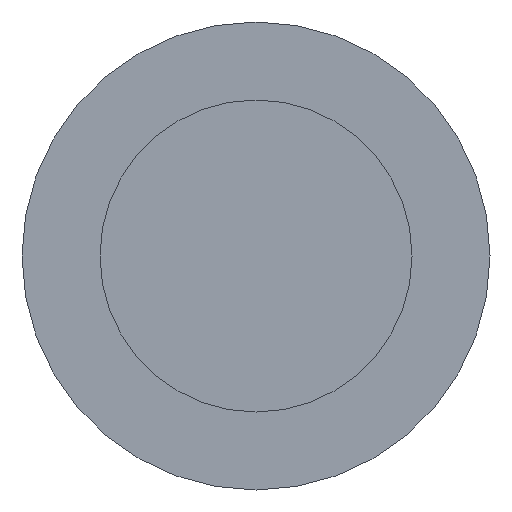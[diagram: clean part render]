
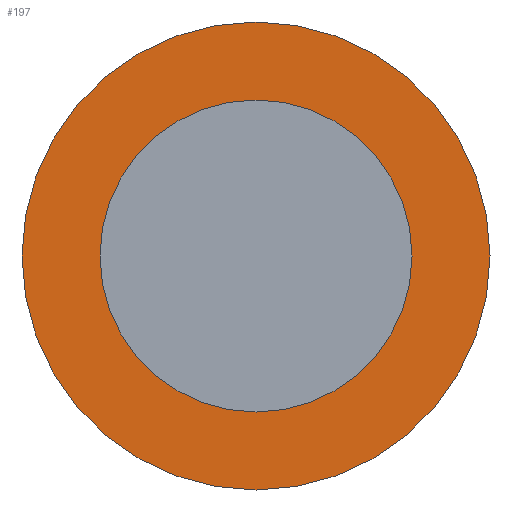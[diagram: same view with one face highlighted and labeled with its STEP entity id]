
A CAD part, front view. The second image highlights one B-rep face of the part: STEP entity #197.
In plain terms, the highlighted planar face has unit normal (0, -1, 0).
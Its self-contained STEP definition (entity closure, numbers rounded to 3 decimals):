
#12 = VERTEX_POINT ( 'NONE', #294 ) ;
#18 = DIRECTION ( 'NONE',  ( 0., 0., 1. ) ) ;
#19 = DIRECTION ( 'NONE',  ( 0., 1., 0. ) ) ;
#28 = ORIENTED_EDGE ( 'NONE', *, *, #189, .F. ) ;
#38 = PLANE ( 'NONE',  #130 ) ;
#57 = CARTESIAN_POINT ( 'NONE',  ( 0., 0., 0. ) ) ;
#58 = ORIENTED_EDGE ( 'NONE', *, *, #117, .T. ) ;
#75 = EDGE_LOOP ( 'NONE', ( #107, #58 ) ) ;
#84 = CARTESIAN_POINT ( 'NONE',  ( 0., 0., 0. ) ) ;
#86 = CARTESIAN_POINT ( 'NONE',  ( 0., 0., -5. ) ) ;
#88 = DIRECTION ( 'NONE',  ( 0., 0., 1. ) ) ;
#91 = DIRECTION ( 'NONE',  ( 0., 1., 0. ) ) ;
#93 = FACE_BOUND ( 'NONE', #75, .T. ) ;
#107 = ORIENTED_EDGE ( 'NONE', *, *, #273, .T. ) ;
#112 = DIRECTION ( 'NONE',  ( 0., 1., 0. ) ) ;
#116 = CIRCLE ( 'NONE', #226, 5. ) ;
#117 = EDGE_CURVE ( 'NONE', #255, #299, #284, .T. ) ;
#129 = VERTEX_POINT ( 'NONE', #300 ) ;
#130 = AXIS2_PLACEMENT_3D ( 'NONE', #224, #243, #88 ) ;
#142 = CARTESIAN_POINT ( 'NONE',  ( 0., 0., 0. ) ) ;
#143 = FACE_OUTER_BOUND ( 'NONE', #218, .T. ) ;
#172 = CIRCLE ( 'NONE', #308, 7.5 ) ;
#178 = AXIS2_PLACEMENT_3D ( 'NONE', #84, #112, #193 ) ;
#181 = DIRECTION ( 'NONE',  ( 0., 1., 0. ) ) ;
#189 = EDGE_CURVE ( 'NONE', #12, #129, #260, .T. ) ;
#193 = DIRECTION ( 'NONE',  ( 0., 0., 1. ) ) ;
#194 = CARTESIAN_POINT ( 'NONE',  ( 0., 0., 0. ) ) ;
#197 = ADVANCED_FACE ( 'NONE', ( #143, #93 ), #38, .F. ) ;
#206 = AXIS2_PLACEMENT_3D ( 'NONE', #57, #181, #236 ) ;
#218 = EDGE_LOOP ( 'NONE', ( #28, #266 ) ) ;
#224 = CARTESIAN_POINT ( 'NONE',  ( 0., 0., 0. ) ) ;
#226 = AXIS2_PLACEMENT_3D ( 'NONE', #194, #91, #18 ) ;
#236 = DIRECTION ( 'NONE',  ( 0., 0., 1. ) ) ;
#243 = DIRECTION ( 'NONE',  ( 0., 1., 0. ) ) ;
#249 = CARTESIAN_POINT ( 'NONE',  ( 0., 0., 5. ) ) ;
#255 = VERTEX_POINT ( 'NONE', #249 ) ;
#260 = CIRCLE ( 'NONE', #178, 7.5 ) ;
#266 = ORIENTED_EDGE ( 'NONE', *, *, #275, .F. ) ;
#273 = EDGE_CURVE ( 'NONE', #299, #255, #116, .T. ) ;
#275 = EDGE_CURVE ( 'NONE', #129, #12, #172, .T. ) ;
#284 = CIRCLE ( 'NONE', #206, 5. ) ;
#294 = CARTESIAN_POINT ( 'NONE',  ( 0., 0., -7.5 ) ) ;
#299 = VERTEX_POINT ( 'NONE', #86 ) ;
#300 = CARTESIAN_POINT ( 'NONE',  ( 0., 0., 7.5 ) ) ;
#308 = AXIS2_PLACEMENT_3D ( 'NONE', #142, #19, #326 ) ;
#326 = DIRECTION ( 'NONE',  ( 0., 0., 1. ) ) ;
